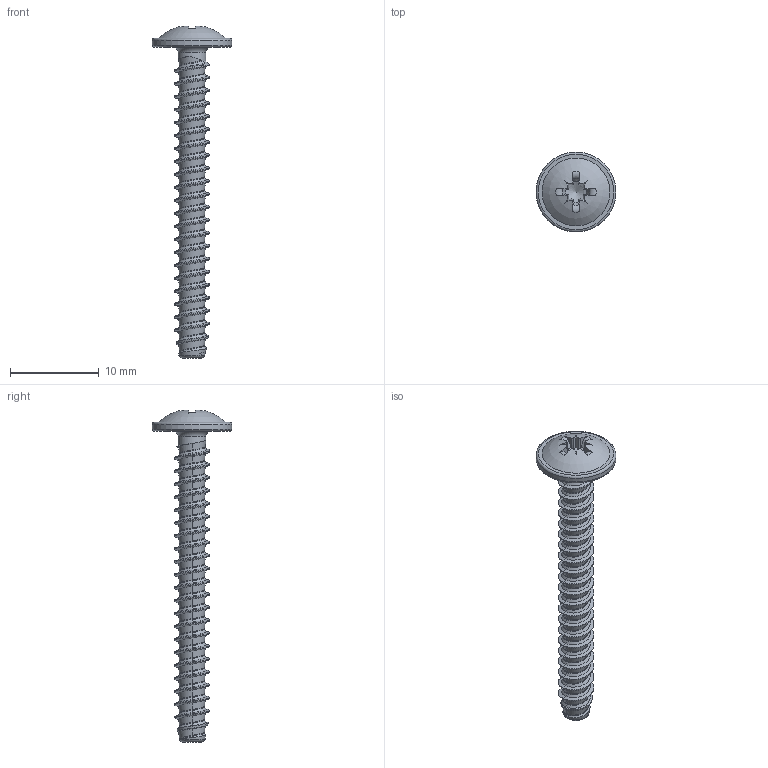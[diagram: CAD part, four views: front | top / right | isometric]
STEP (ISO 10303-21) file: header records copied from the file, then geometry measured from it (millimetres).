
FILE_DESCRIPTION(/* description */ (''),/* implementation_level */ '2;1');
FILE_NAME(/* name */ 'KN6031-STSplus-40x35-Z2.step',/* time_stamp */ '2017-10-09T16:53:04+02:00',/* author */ (''),/* organization */ (''),/* preprocessor_version */ 'ST-DEVELOPER v16',/* originating_system */ 'SIEMENS PLM Software NX 10.0',/* authorisation */ '');
FILE_SCHEMA (('AUTOMOTIVE_DESIGN { 1 0 10303 214 3 1 1 1 }'));
Length unit declared in the file: millimetre
Products named in the file (1): KN6031-STSplus-40x35-Z2
Bounding box: 9 x 9 x 37.39 mm (x, y, z)
Volume: 357.1 mm3; surface area: 683.3 mm2
Topology: 1 solids, 1 shells, 173 faces, 413 edges, 243 vertices
Faces by surface type: bspline 119, plane 27, cylinder 11, torus 8, cone 7, sphere 1
Full cylindrical faces by diameter (mm): 3.13 x1, 9 x1
Entity records: 11492 total; most frequent: CARTESIAN_POINT 8315, ORIENTED_EDGE 798, EDGE_CURVE 399, DIRECTION 353, VERTEX_POINT 238, B_SPLINE_CURVE_WITH_KNOTS 204, EDGE_LOOP 182, ADVANCED_FACE 173
